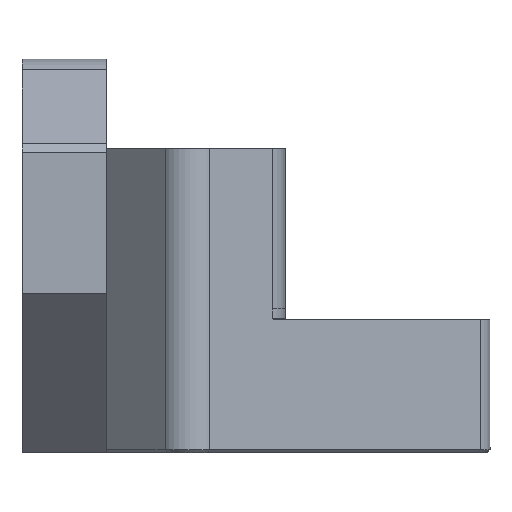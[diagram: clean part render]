
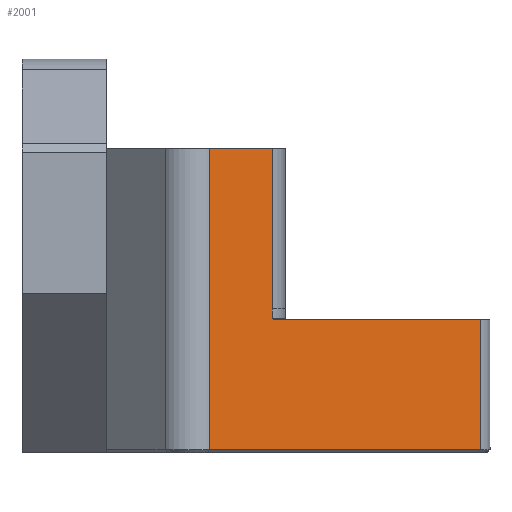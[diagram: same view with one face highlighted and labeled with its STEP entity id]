
A CAD part, left-side view. The second image highlights one B-rep face of the part: STEP entity #2001.
In plain terms, the highlighted planar face has unit normal (-0.707, -0.707, 0).
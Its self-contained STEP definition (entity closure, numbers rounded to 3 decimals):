
#248=FACE_OUTER_BOUND('',#360,.T.);
#360=EDGE_LOOP('',(#1562,#1563,#1564,#1565,#1566,#1567,#1568,#1569,#1570));
#506=LINE('',#3962,#689);
#526=LINE('',#4019,#709);
#534=LINE('',#4040,#717);
#535=LINE('',#4043,#718);
#536=LINE('',#4045,#719);
#537=LINE('',#4047,#720);
#538=LINE('',#4049,#721);
#539=LINE('',#4051,#722);
#540=LINE('',#4052,#723);
#689=VECTOR('',#2414,10.);
#709=VECTOR('',#2468,10.);
#717=VECTOR('',#2488,10.);
#718=VECTOR('',#2493,10.);
#719=VECTOR('',#2494,10.);
#720=VECTOR('',#2495,10.);
#721=VECTOR('',#2496,10.);
#722=VECTOR('',#2497,10.);
#723=VECTOR('',#2498,10.);
#905=VERTEX_POINT('',#3959);
#906=VERTEX_POINT('',#3961);
#923=VERTEX_POINT('',#4009);
#925=VERTEX_POINT('',#4015);
#933=VERTEX_POINT('',#4039);
#934=VERTEX_POINT('',#4044);
#935=VERTEX_POINT('',#4046);
#936=VERTEX_POINT('',#4048);
#937=VERTEX_POINT('',#4050);
#1137=EDGE_CURVE('',#906,#905,#506,.F.);
#1166=EDGE_CURVE('',#923,#925,#526,.T.);
#1176=EDGE_CURVE('',#925,#933,#534,.T.);
#1178=EDGE_CURVE('',#906,#923,#535,.T.);
#1179=EDGE_CURVE('',#905,#934,#536,.T.);
#1180=EDGE_CURVE('',#934,#935,#537,.T.);
#1181=EDGE_CURVE('',#936,#935,#538,.T.);
#1182=EDGE_CURVE('',#937,#936,#539,.T.);
#1183=EDGE_CURVE('',#933,#937,#540,.T.);
#1562=ORIENTED_EDGE('',*,*,#1166,.F.);
#1563=ORIENTED_EDGE('',*,*,#1178,.F.);
#1564=ORIENTED_EDGE('',*,*,#1137,.T.);
#1565=ORIENTED_EDGE('',*,*,#1179,.T.);
#1566=ORIENTED_EDGE('',*,*,#1180,.T.);
#1567=ORIENTED_EDGE('',*,*,#1181,.F.);
#1568=ORIENTED_EDGE('',*,*,#1182,.F.);
#1569=ORIENTED_EDGE('',*,*,#1183,.F.);
#1570=ORIENTED_EDGE('',*,*,#1176,.F.);
#1927=PLANE('',#2144);
#2001=ADVANCED_FACE('',(#248),#1927,.T.);
#2144=AXIS2_PLACEMENT_3D('',#4042,#2491,#2492);
#2414=DIRECTION('',(0.707,-0.707,0.));
#2468=DIRECTION('',(-0.707,0.707,0.));
#2488=DIRECTION('',(0.,0.,1.));
#2491=DIRECTION('center_axis',(-0.707,-0.707,0.));
#2492=DIRECTION('ref_axis',(0.707,-0.707,0.));
#2493=DIRECTION('',(0.,0.,-1.));
#2494=DIRECTION('',(0.,0.,1.));
#2495=DIRECTION('',(-0.707,0.707,0.));
#2496=DIRECTION('',(0.,0.,-1.));
#2497=DIRECTION('',(0.,0.,-1.));
#2498=DIRECTION('',(0.707,-0.707,0.));
#3959=CARTESIAN_POINT('',(8.88,40.192,-20.17));
#3961=CARTESIAN_POINT('',(22.898,26.174,-20.17));
#3962=CARTESIAN_POINT('',(9.553,39.519,-20.17));
#4009=CARTESIAN_POINT('',(22.898,26.174,-28.97));
#4015=CARTESIAN_POINT('',(4.55,44.522,-28.97));
#4019=CARTESIAN_POINT('',(10.867,38.206,-28.97));
#4039=CARTESIAN_POINT('',(4.55,44.522,-8.582));
#4040=CARTESIAN_POINT('',(4.55,44.522,-17.82));
#4042=CARTESIAN_POINT('Origin',(4.55,44.522,-28.87));
#4043=CARTESIAN_POINT('',(22.898,26.174,-27.223));
#4044=CARTESIAN_POINT('',(8.88,40.192,-20.07));
#4045=CARTESIAN_POINT('',(8.88,40.192,-19.27));
#4046=CARTESIAN_POINT('',(8.775,40.298,-20.07));
#4047=CARTESIAN_POINT('',(6.651,42.421,-20.07));
#4048=CARTESIAN_POINT('',(8.775,40.298,-19.42));
#4049=CARTESIAN_POINT('',(8.775,40.298,-19.42));
#4050=CARTESIAN_POINT('',(8.775,40.298,-8.582));
#4051=CARTESIAN_POINT('',(8.775,40.298,-23.598));
#4052=CARTESIAN_POINT('',(10.867,38.206,-8.582));
